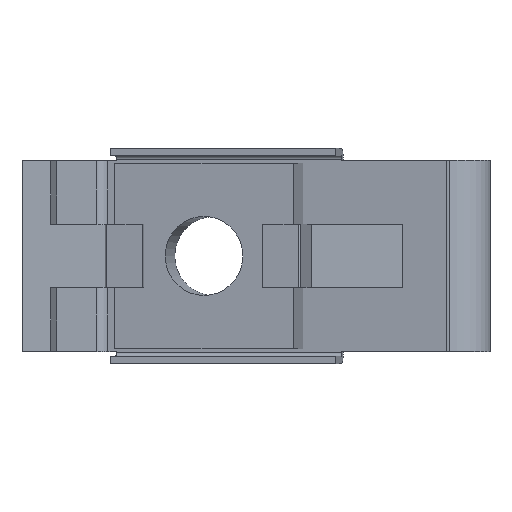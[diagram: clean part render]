
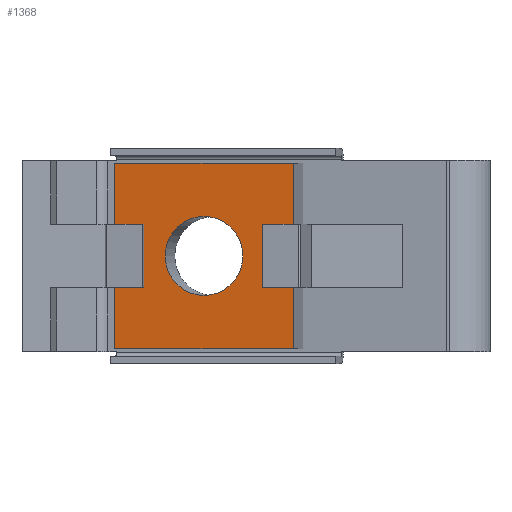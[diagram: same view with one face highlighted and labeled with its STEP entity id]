
A CAD part, top view. The second image highlights one B-rep face of the part: STEP entity #1368.
In plain terms, the highlighted planar face has unit normal (-0.18, 0, 0.984).
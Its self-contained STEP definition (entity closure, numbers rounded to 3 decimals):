
#43=CIRCLE('',#1447,2.067);
#91=ORIENTED_EDGE('',*,*,#479,.F.);
#92=ORIENTED_EDGE('',*,*,#480,.F.);
#93=ORIENTED_EDGE('',*,*,#478,.F.);
#94=ORIENTED_EDGE('',*,*,#481,.T.);
#95=ORIENTED_EDGE('',*,*,#482,.T.);
#478=EDGE_CURVE('',#672,#670,#802,.T.);
#479=EDGE_CURVE('',#673,#673,#43,.T.);
#480=EDGE_CURVE('',#670,#674,#803,.T.);
#481=EDGE_CURVE('',#672,#675,#804,.T.);
#482=EDGE_CURVE('',#675,#674,#805,.T.);
#670=VERTEX_POINT('',#1950);
#672=VERTEX_POINT('',#1954);
#673=VERTEX_POINT('',#1958);
#674=VERTEX_POINT('',#1960);
#675=VERTEX_POINT('',#1962);
#802=LINE('',#1955,#950);
#803=LINE('',#1959,#951);
#804=LINE('',#1961,#952);
#805=LINE('',#1963,#953);
#950=VECTOR('',#1569,1000.);
#951=VECTOR('',#1574,1000.);
#952=VECTOR('',#1575,1000.);
#953=VECTOR('',#1576,1000.);
#1096=EDGE_LOOP('',(#91));
#1097=EDGE_LOOP('',(#92,#93,#94,#95));
#1178=FACE_BOUND('',#1096,.T.);
#1179=FACE_BOUND('',#1097,.T.);
#1260=PLANE('',#1446);
#1368=ADVANCED_FACE('',(#1178,#1179),#1260,.T.);
#1446=AXIS2_PLACEMENT_3D('',#1956,#1570,#1571);
#1447=AXIS2_PLACEMENT_3D('',#1957,#1572,#1573);
#1569=DIRECTION('',(0.,1.,0.));
#1570=DIRECTION('',(-0.18,0.,0.984));
#1571=DIRECTION('',(0.984,0.,0.18));
#1572=DIRECTION('',(-0.18,0.,0.984));
#1573=DIRECTION('',(0.984,0.,0.18));
#1574=DIRECTION('',(0.984,0.,0.18));
#1575=DIRECTION('',(0.984,0.,0.18));
#1576=DIRECTION('',(0.,1.,0.));
#1950=CARTESIAN_POINT('',(4.855,4.85,4.26));
#1954=CARTESIAN_POINT('',(4.855,-4.85,4.26));
#1955=CARTESIAN_POINT('',(4.855,-4.85,4.26));
#1956=CARTESIAN_POINT('',(4.855,-4.85,4.26));
#1957=CARTESIAN_POINT('',(9.528,0.,5.115));
#1958=CARTESIAN_POINT('',(11.561,0.,5.486));
#1959=CARTESIAN_POINT('',(4.855,4.85,4.26));
#1960=CARTESIAN_POINT('',(14.2,4.85,5.969));
#1961=CARTESIAN_POINT('',(4.855,-4.85,4.26));
#1962=CARTESIAN_POINT('',(14.2,-4.85,5.969));
#1963=CARTESIAN_POINT('',(14.2,-4.85,5.969));
